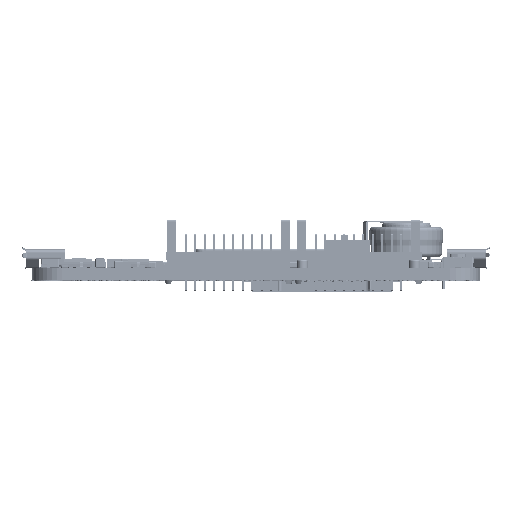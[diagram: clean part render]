
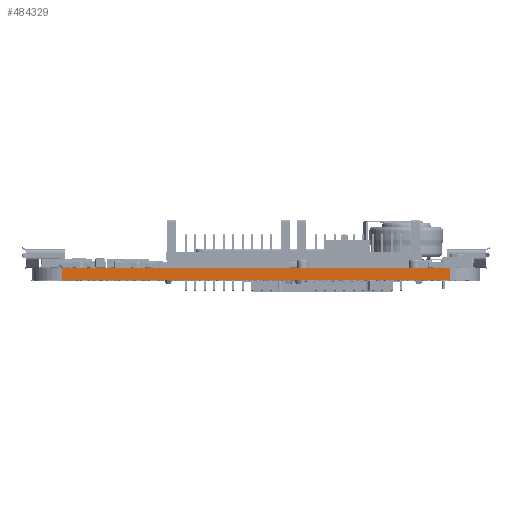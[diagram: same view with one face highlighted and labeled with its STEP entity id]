
A CAD part, top view. The second image highlights one B-rep face of the part: STEP entity #484329.
In plain terms, the highlighted planar face has unit normal (0, 0, 1).
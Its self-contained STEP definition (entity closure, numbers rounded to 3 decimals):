
#8216 = LINE ( 'NONE', #646612, #8222 ) ;
#8222 = VECTOR ( 'NONE', #646617, 1000. ) ;
#8407 = LINE ( 'NONE', #646785, #8412 ) ;
#8412 = VECTOR ( 'NONE', #646790, 1000. ) ;
#8501 = LINE ( 'NONE', #646858, #8507 ) ;
#8507 = VECTOR ( 'NONE', #646861, 1000. ) ;
#22749 = ORIENTED_EDGE ( 'NONE', *, *, #540307, .F. ) ;
#22758 = ORIENTED_EDGE ( 'NONE', *, *, #57058, .F. ) ;
#22764 = ORIENTED_EDGE ( 'NONE', *, *, #569804, .T. ) ;
#22772 = ORIENTED_EDGE ( 'NONE', *, *, #57268, .T. ) ;
#22779 = ORIENTED_EDGE ( 'NONE', *, *, #569796, .T. ) ;
#22787 = ORIENTED_EDGE ( 'NONE', *, *, #57275, .T. ) ;
#22794 = ORIENTED_EDGE ( 'NONE', *, *, #57254, .T. ) ;
#35751 = AXIS2_PLACEMENT_3D ( 'NONE', #242072, #242076, #242082 ) ;
#45334 = VERTEX_POINT ( 'NONE', #405676 ) ;
#45339 = VERTEX_POINT ( 'NONE', #405681 ) ;
#45343 = VERTEX_POINT ( 'NONE', #405684 ) ;
#45686 = VERTEX_POINT ( 'NONE', #406064 ) ;
#57058 = EDGE_CURVE ( 'NONE', #45343, #522189, #639732, .T. ) ;
#57254 = EDGE_CURVE ( 'NONE', #45686, #522195, #8216, .T. ) ;
#57268 = EDGE_CURVE ( 'NONE', #45339, #252914, #8407, .T. ) ;
#57275 = EDGE_CURVE ( 'NONE', #45334, #45686, #8501, .T. ) ;
#212856 = LINE ( 'NONE', #216164, #212864 ) ;
#212864 = VECTOR ( 'NONE', #216166, 1000. ) ;
#212869 = LINE ( 'NONE', #216175, #212874 ) ;
#212874 = VECTOR ( 'NONE', #216177, 1000. ) ;
#216164 = CARTESIAN_POINT ( 'NONE',  ( 94., -1.6, -158. ) ) ;
#216166 = DIRECTION ( 'NONE',  ( 1., 0., 0. ) ) ;
#216175 = CARTESIAN_POINT ( 'NONE',  ( 94., -1.6, -158. ) ) ;
#216177 = DIRECTION ( 'NONE',  ( 1., 0., 0. ) ) ;
#242067 = PLANE ( 'NONE',  #35751 ) ;
#242072 = CARTESIAN_POINT ( 'NONE',  ( 94., -1.6, -158. ) ) ;
#242076 = DIRECTION ( 'NONE',  ( 0., 0., 1. ) ) ;
#242082 = DIRECTION ( 'NONE',  ( 1., 0., 0. ) ) ;
#252914 = VERTEX_POINT ( 'NONE', #538628 ) ;
#254421 = FACE_OUTER_BOUND ( 'NONE', #264934, .T. ) ;
#264934 = EDGE_LOOP ( 'NONE', ( #22749, #22758, #22764, #22772, #22779, #22787, #22794 ) ) ;
#266654 = CARTESIAN_POINT ( 'NONE',  ( 94., 0., -158. ) ) ;
#266670 = CARTESIAN_POINT ( 'NONE',  ( 146., 0., -158. ) ) ;
#396876 = LINE ( 'NONE', #400974, #396883 ) ;
#396883 = VECTOR ( 'NONE', #400976, 1000. ) ;
#400974 = CARTESIAN_POINT ( 'NONE',  ( 94., 0., -158. ) ) ;
#400976 = DIRECTION ( 'NONE',  ( 1., 0., 0. ) ) ;
#405676 = CARTESIAN_POINT ( 'NONE',  ( 144.983, -1.6, -158. ) ) ;
#405681 = CARTESIAN_POINT ( 'NONE',  ( 102.983, -1.6, -158. ) ) ;
#405684 = CARTESIAN_POINT ( 'NONE',  ( 94., -1.6, -158. ) ) ;
#406064 = CARTESIAN_POINT ( 'NONE',  ( 146., -1.6, -158. ) ) ;
#484329 = ADVANCED_FACE ( 'NONE', ( #254421 ), #242067, .T. ) ;
#522189 = VERTEX_POINT ( 'NONE', #266654 ) ;
#522195 = VERTEX_POINT ( 'NONE', #266670 ) ;
#538628 = CARTESIAN_POINT ( 'NONE',  ( 105.017, -1.6, -158. ) ) ;
#540307 = EDGE_CURVE ( 'NONE', #522189, #522195, #396876, .T. ) ;
#569796 = EDGE_CURVE ( 'NONE', #252914, #45334, #212856, .T. ) ;
#569804 = EDGE_CURVE ( 'NONE', #45343, #45339, #212869, .T. ) ;
#639732 = LINE ( 'NONE', #644804, #639733 ) ;
#639733 = VECTOR ( 'NONE', #644809, 1000. ) ;
#644804 = CARTESIAN_POINT ( 'NONE',  ( 94., -1.6, -158. ) ) ;
#644809 = DIRECTION ( 'NONE',  ( 0., 1., 0. ) ) ;
#646612 = CARTESIAN_POINT ( 'NONE',  ( 146., -1.6, -158. ) ) ;
#646617 = DIRECTION ( 'NONE',  ( 0., 1., 0. ) ) ;
#646785 = CARTESIAN_POINT ( 'NONE',  ( 94., -1.6, -158. ) ) ;
#646790 = DIRECTION ( 'NONE',  ( 1., 0., 0. ) ) ;
#646858 = CARTESIAN_POINT ( 'NONE',  ( 94., -1.6, -158. ) ) ;
#646861 = DIRECTION ( 'NONE',  ( 1., 0., 0. ) ) ;
